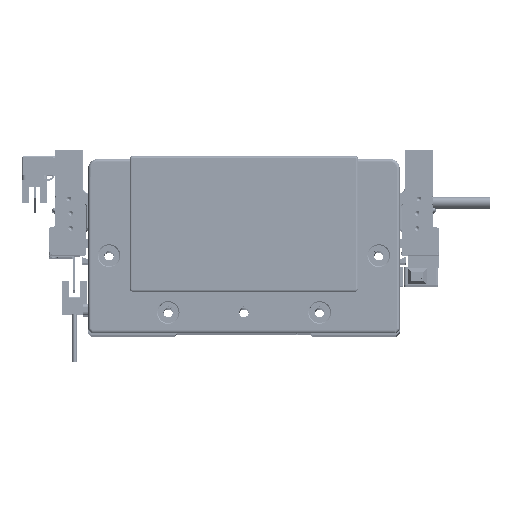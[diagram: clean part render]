
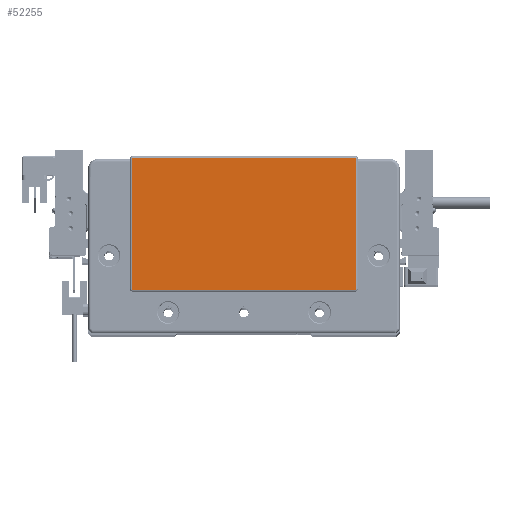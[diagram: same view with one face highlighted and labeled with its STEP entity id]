
A CAD part, top view. The second image highlights one B-rep face of the part: STEP entity #52255.
In plain terms, the highlighted planar face has unit normal (0, 0, 1) as drawn and (0, 0, -1) by its records, which use the part's own axes.
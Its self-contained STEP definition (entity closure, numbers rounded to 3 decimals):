
#186 = VECTOR ( 'NONE', #74860, 1000. ) ;
#2769 = DIRECTION ( 'NONE',  ( -1., 0., 0. ) ) ;
#6730 = CARTESIAN_POINT ( 'NONE',  ( -59.25, 45.3, -2. ) ) ;
#7938 = CARTESIAN_POINT ( 'NONE',  ( -58.75, -23.3, -2. ) ) ;
#8228 = AXIS2_PLACEMENT_3D ( 'NONE', #7938, #80074, #20569 ) ;
#8573 = ORIENTED_EDGE ( 'NONE', *, *, #59995, .T. ) ;
#8629 = CARTESIAN_POINT ( 'NONE',  ( -58.75, -23.8, -2. ) ) ;
#10989 = ORIENTED_EDGE ( 'NONE', *, *, #68621, .T. ) ;
#12472 = CARTESIAN_POINT ( 'NONE',  ( 58.75, 45.8, -2. ) ) ;
#16406 = VERTEX_POINT ( 'NONE', #43295 ) ;
#16594 = DIRECTION ( 'NONE',  ( -1., 0., 0. ) ) ;
#18064 = ORIENTED_EDGE ( 'NONE', *, *, #82023, .T. ) ;
#19479 = VERTEX_POINT ( 'NONE', #66851 ) ;
#20358 = EDGE_CURVE ( 'NONE', #23569, #19479, #72711, .T. ) ;
#20569 = DIRECTION ( 'NONE',  ( -1., 0., 0. ) ) ;
#21197 = ORIENTED_EDGE ( 'NONE', *, *, #20358, .T. ) ;
#22423 = DIRECTION ( 'NONE',  ( 0., 0., -1. ) ) ;
#23569 = VERTEX_POINT ( 'NONE', #12472 ) ;
#23827 = EDGE_CURVE ( 'NONE', #19479, #59298, #30606, .T. ) ;
#27361 = VERTEX_POINT ( 'NONE', #6730 ) ;
#28286 = VERTEX_POINT ( 'NONE', #61473 ) ;
#30606 = LINE ( 'NONE', #36673, #63464 ) ;
#31746 = DIRECTION ( 'NONE',  ( 0., 1., 0. ) ) ;
#32177 = LINE ( 'NONE', #85160, #51303 ) ;
#35261 = CARTESIAN_POINT ( 'NONE',  ( 58.75, -23.8, -2. ) ) ;
#36673 = CARTESIAN_POINT ( 'NONE',  ( 59.25, -23.3, -2. ) ) ;
#37539 = VERTEX_POINT ( 'NONE', #44662 ) ;
#42146 = DIRECTION ( 'NONE',  ( 0., 0., -1. ) ) ;
#43281 = EDGE_CURVE ( 'NONE', #60892, #28286, #54664, .T. ) ;
#43295 = CARTESIAN_POINT ( 'NONE',  ( -58.75, 45.8, -2. ) ) ;
#44167 = VECTOR ( 'NONE', #67297, 1000. ) ;
#44662 = CARTESIAN_POINT ( 'NONE',  ( -59.25, -23.3, -2. ) ) ;
#45696 = CIRCLE ( 'NONE', #8228, 0.5 ) ;
#47770 = CIRCLE ( 'NONE', #67203, 0.5 ) ;
#48341 = LINE ( 'NONE', #67054, #186 ) ;
#48666 = DIRECTION ( 'NONE',  ( -1., 0., 0. ) ) ;
#50807 = AXIS2_PLACEMENT_3D ( 'NONE', #82165, #76103, #16594 ) ;
#51303 = VECTOR ( 'NONE', #31746, 1000. ) ;
#52255 = ADVANCED_FACE ( 'NONE', ( #62570 ), #55186, .T. ) ;
#54211 = EDGE_CURVE ( 'NONE', #27361, #16406, #47770, .T. ) ;
#54440 = CARTESIAN_POINT ( 'NONE',  ( 58.75, 45.3, -2. ) ) ;
#54664 = LINE ( 'NONE', #8629, #44167 ) ;
#54760 = EDGE_LOOP ( 'NONE', ( #71558, #18064, #60521, #64006, #8573, #60846, #10989, #21197 ) ) ;
#55186 = PLANE ( 'NONE',  #73906 ) ;
#55608 = CARTESIAN_POINT ( 'NONE',  ( 0., 0., -2. ) ) ;
#57094 = DIRECTION ( 'NONE',  ( 0., -1., 0. ) ) ;
#59298 = VERTEX_POINT ( 'NONE', #78894 ) ;
#59995 = EDGE_CURVE ( 'NONE', #37539, #27361, #32177, .T. ) ;
#60521 = ORIENTED_EDGE ( 'NONE', *, *, #43281, .T. ) ;
#60846 = ORIENTED_EDGE ( 'NONE', *, *, #54211, .T. ) ;
#60892 = VERTEX_POINT ( 'NONE', #35261 ) ;
#61473 = CARTESIAN_POINT ( 'NONE',  ( -58.75, -23.8, -2. ) ) ;
#62570 = FACE_OUTER_BOUND ( 'NONE', #54760, .T. ) ;
#63464 = VECTOR ( 'NONE', #57094, 1000. ) ;
#64006 = ORIENTED_EDGE ( 'NONE', *, *, #74166, .T. ) ;
#66851 = CARTESIAN_POINT ( 'NONE',  ( 59.25, 45.3, -2. ) ) ;
#67054 = CARTESIAN_POINT ( 'NONE',  ( 58.75, 45.8, -2. ) ) ;
#67203 = AXIS2_PLACEMENT_3D ( 'NONE', #70200, #22423, #82348 ) ;
#67297 = DIRECTION ( 'NONE',  ( -1., 0., 0. ) ) ;
#67917 = DIRECTION ( 'NONE',  ( 0., 0., -1. ) ) ;
#68621 = EDGE_CURVE ( 'NONE', #16406, #23569, #48341, .T. ) ;
#70200 = CARTESIAN_POINT ( 'NONE',  ( -58.75, 45.3, -2. ) ) ;
#71558 = ORIENTED_EDGE ( 'NONE', *, *, #23827, .T. ) ;
#72711 = CIRCLE ( 'NONE', #78227, 0.5 ) ;
#73906 = AXIS2_PLACEMENT_3D ( 'NONE', #55608, #42146, #48666 ) ;
#74166 = EDGE_CURVE ( 'NONE', #28286, #37539, #45696, .T. ) ;
#74860 = DIRECTION ( 'NONE',  ( 1., 0., 0. ) ) ;
#76103 = DIRECTION ( 'NONE',  ( 0., 0., -1. ) ) ;
#78227 = AXIS2_PLACEMENT_3D ( 'NONE', #54440, #67917, #2769 ) ;
#78894 = CARTESIAN_POINT ( 'NONE',  ( 59.25, -23.3, -2. ) ) ;
#80074 = DIRECTION ( 'NONE',  ( 0., 0., -1. ) ) ;
#81362 = CIRCLE ( 'NONE', #50807, 0.5 ) ;
#82023 = EDGE_CURVE ( 'NONE', #59298, #60892, #81362, .T. ) ;
#82165 = CARTESIAN_POINT ( 'NONE',  ( 58.75, -23.3, -2. ) ) ;
#82348 = DIRECTION ( 'NONE',  ( -1., 0., 0. ) ) ;
#85160 = CARTESIAN_POINT ( 'NONE',  ( -59.25, 45.3, -2. ) ) ;
